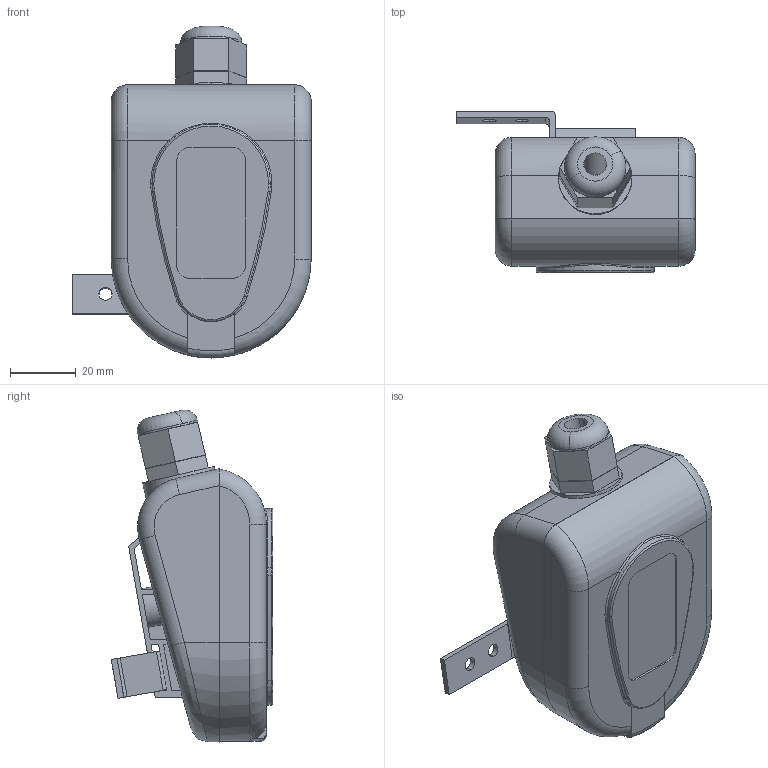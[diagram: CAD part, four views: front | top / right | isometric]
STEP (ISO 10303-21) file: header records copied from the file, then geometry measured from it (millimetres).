
FILE_DESCRIPTION (( 'STEP AP203' ), '1' );
FILE_NAME ('Ñáîðêà ATF2.STEP', '2019-10-08T11:30:05', ( '' ), ( '' ), 'SwSTEP 2.0', 'SolidWorks 2016', '' );
FILE_SCHEMA (( 'CONFIG_CONTROL_DESIGN' ));
Length unit declared in the file: millimetre
Products named in the file (12): Êëåìíèê; 栖闉罻 ATF2; 砎鍒鍱 1; 砎鍒鍱 2; 櫻蠉錪7^栖闉罻; 櫻蠉錪8^栖闉罻; ïëàòà, êðóãëàÿ; Ñêîáà äëÿ ATF2-PT1000; Êîðïóñ_„«ï áª®¡; 秮鶋罻; Êðûøêà; Ãåðìîââîä
Assembly tree (11 placements, depth 2):
  栖闉罻 ATF2
    Êîðïóñ_„«ï áª®¡
    Êðûøêà
    Êëåìíèê
    砎鍒鍱 1
    砎鍒鍱 2
    櫻蠉錪7^栖闉罻
    櫻蠉錪8^栖闉罻
    ïëàòà, êðóãëàÿ
    Ñêîáà äëÿ ATF2-PT1000
    秮鶋罻
    Ãåðìîââîä
Bounding box: 72.79 x 49.29 x 101.33 mm (x, y, z)
Volume: 58173.9 mm3; surface area: 61461.2 mm2
Topology: 11 solids, 11 shells, 498 faces, 1265 edges, 824 vertices
Faces by surface type: plane 274, cylinder 163, torus 30, bspline 23, cone 8
Entity records: 21429 total; most frequent: CARTESIAN_POINT 8152, ORIENTED_EDGE 2530, DIRECTION 2453, EDGE_CURVE 1265, AXIS2_PLACEMENT_3D 863, VERTEX_POINT 824, VECTOR 727, LINE 727
